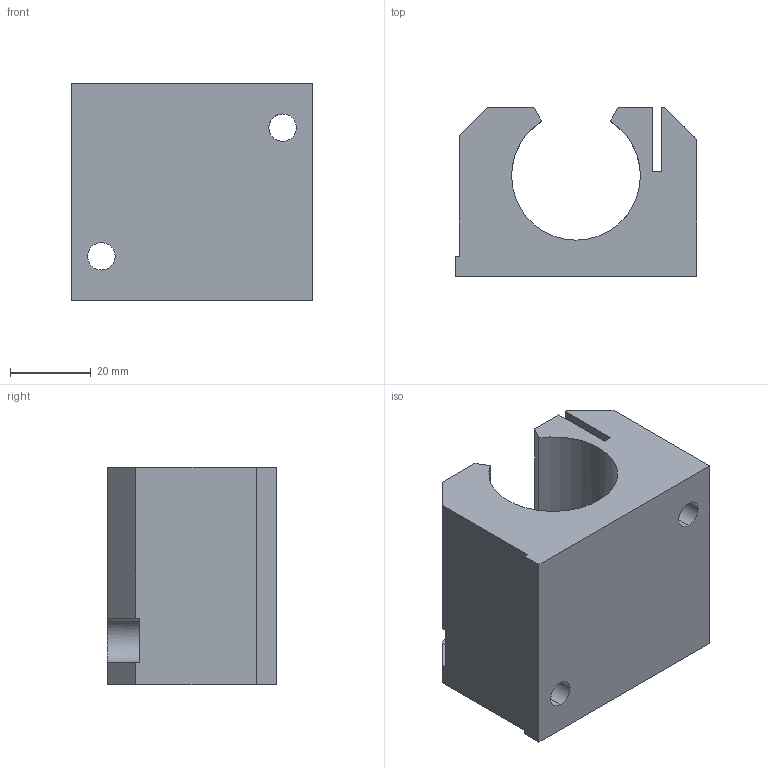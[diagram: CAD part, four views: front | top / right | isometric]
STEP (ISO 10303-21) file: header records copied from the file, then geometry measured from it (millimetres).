
FILE_DESCRIPTION (( 'STEP AP214' ), '1' );
FILE_NAME ('KGOE38-20.step', '2020-03-04T13:22:46', ( '' ), ( '' ), 'SwSTEP 2.0', 'SolidWorks 2019', '' );
FILE_SCHEMA (( 'AUTOMOTIVE_DESIGN' ));
Length unit declared in the file: millimetre
Products named in the file (1): KGOE38-20
Bounding box: 60 x 42 x 54 mm (x, y, z)
Volume: 78922.7 mm3; surface area: 21066 mm2
Topology: 1 solids, 1 shells, 53 faces, 154 edges, 100 vertices
Faces by surface type: plane 30, cylinder 21, cone 2
Entity records: 2021 total; most frequent: CARTESIAN_POINT 445, ORIENTED_EDGE 308, DIRECTION 292, EDGE_CURVE 154, VECTOR 102, LINE 102, VERTEX_POINT 100, AXIS2_PLACEMENT_3D 95
